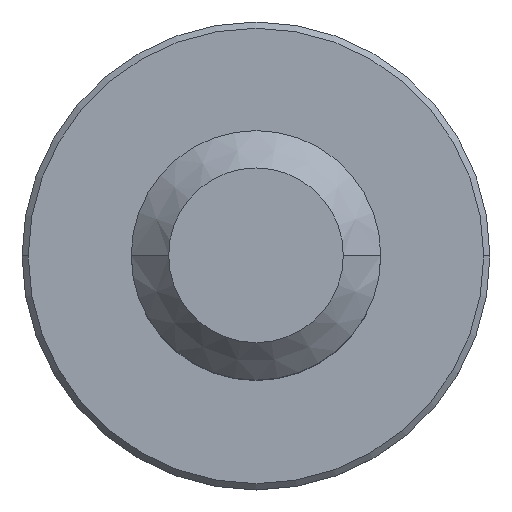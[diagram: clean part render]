
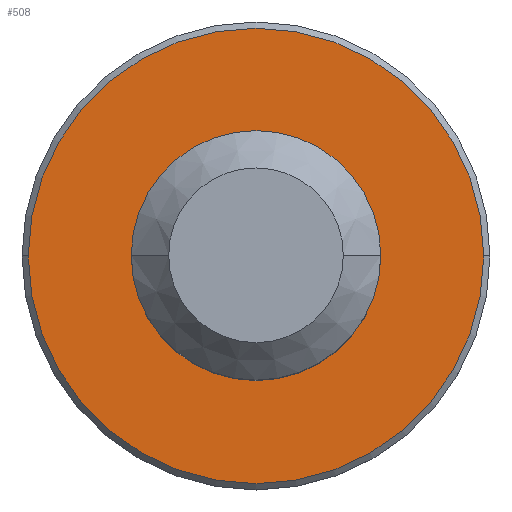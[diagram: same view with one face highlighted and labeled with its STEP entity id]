
A CAD part, top view. The second image highlights one B-rep face of the part: STEP entity #508.
In plain terms, the highlighted planar face has unit normal (0, 0, 1).
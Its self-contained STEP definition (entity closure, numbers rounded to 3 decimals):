
#31 = CIRCLE ( 'NONE', #751, 3.85 ) ;
#32 = VERTEX_POINT ( 'NONE', #1391 ) ;
#50 = VERTEX_POINT ( 'NONE', #380 ) ;
#100 = FACE_OUTER_BOUND ( 'NONE', #1024, .T. ) ;
#136 = ORIENTED_EDGE ( 'NONE', *, *, #1651, .T. ) ;
#156 = CARTESIAN_POINT ( 'NONE',  ( 0., 0., 0. ) ) ;
#228 = AXIS2_PLACEMENT_3D ( 'NONE', #1612, #309, #888 ) ;
#230 = EDGE_CURVE ( 'NONE', #1066, #32, #858, .T. ) ;
#291 = CIRCLE ( 'NONE', #228, 7.3 ) ;
#309 = DIRECTION ( 'NONE',  ( 0., 0., 1. ) ) ;
#380 = CARTESIAN_POINT ( 'NONE',  ( -7.3, 0., 0. ) ) ;
#508 = ADVANCED_FACE ( 'NONE', ( #100, #536 ), #1839, .T. ) ;
#536 = FACE_BOUND ( 'NONE', #1579, .T. ) ;
#548 = DIRECTION ( 'NONE',  ( 0., 0., 1. ) ) ;
#590 = CIRCLE ( 'NONE', #1367, 7.3 ) ;
#630 = DIRECTION ( 'NONE',  ( 0., 0., -1. ) ) ;
#638 = DIRECTION ( 'NONE',  ( 0., 0., 1. ) ) ;
#652 = DIRECTION ( 'NONE',  ( 1., 0., 0. ) ) ;
#663 = ORIENTED_EDGE ( 'NONE', *, *, #1748, .T. ) ;
#670 = ORIENTED_EDGE ( 'NONE', *, *, #230, .T. ) ;
#751 = AXIS2_PLACEMENT_3D ( 'NONE', #1327, #630, #1621 ) ;
#819 = DIRECTION ( 'NONE',  ( 1., 0., 0. ) ) ;
#823 = CARTESIAN_POINT ( 'NONE',  ( 0., 0., 0. ) ) ;
#858 = CIRCLE ( 'NONE', #1096, 3.85 ) ;
#888 = DIRECTION ( 'NONE',  ( 1., 0., 0. ) ) ;
#960 = EDGE_CURVE ( 'NONE', #1557, #50, #590, .T. ) ;
#1024 = EDGE_LOOP ( 'NONE', ( #663, #1688 ) ) ;
#1066 = VERTEX_POINT ( 'NONE', #1405 ) ;
#1096 = AXIS2_PLACEMENT_3D ( 'NONE', #156, #1198, #1772 ) ;
#1104 = CARTESIAN_POINT ( 'NONE',  ( 0., 4., 0. ) ) ;
#1198 = DIRECTION ( 'NONE',  ( 0., 0., -1. ) ) ;
#1266 = CARTESIAN_POINT ( 'NONE',  ( 7.3, 0., 0. ) ) ;
#1327 = CARTESIAN_POINT ( 'NONE',  ( 0., 0., 0. ) ) ;
#1367 = AXIS2_PLACEMENT_3D ( 'NONE', #823, #638, #652 ) ;
#1391 = CARTESIAN_POINT ( 'NONE',  ( -3.85, 0., 0. ) ) ;
#1405 = CARTESIAN_POINT ( 'NONE',  ( 3.85, 0., 0. ) ) ;
#1557 = VERTEX_POINT ( 'NONE', #1266 ) ;
#1579 = EDGE_LOOP ( 'NONE', ( #670, #136 ) ) ;
#1612 = CARTESIAN_POINT ( 'NONE',  ( 0., 0., 0. ) ) ;
#1621 = DIRECTION ( 'NONE',  ( 1., 0., 0. ) ) ;
#1651 = EDGE_CURVE ( 'NONE', #32, #1066, #31, .T. ) ;
#1688 = ORIENTED_EDGE ( 'NONE', *, *, #960, .T. ) ;
#1707 = AXIS2_PLACEMENT_3D ( 'NONE', #1104, #548, #819 ) ;
#1748 = EDGE_CURVE ( 'NONE', #50, #1557, #291, .T. ) ;
#1772 = DIRECTION ( 'NONE',  ( 1., 0., 0. ) ) ;
#1839 = PLANE ( 'NONE',  #1707 ) ;
